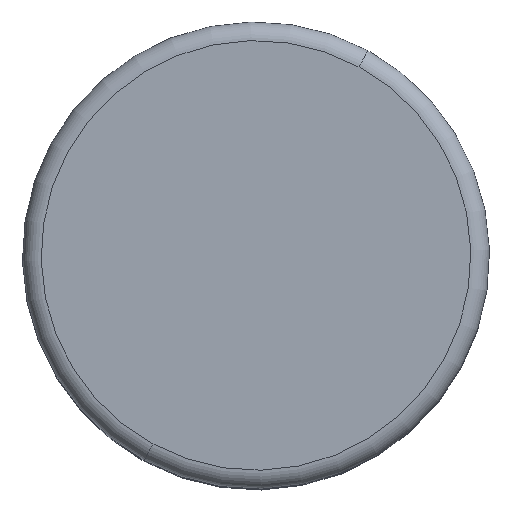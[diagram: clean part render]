
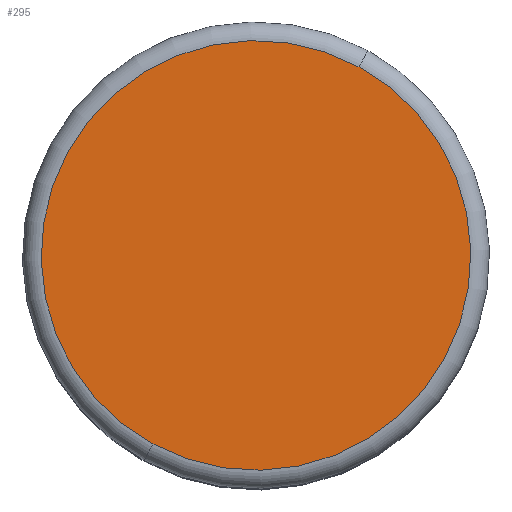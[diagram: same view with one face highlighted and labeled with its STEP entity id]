
A CAD part, top view. The second image highlights one B-rep face of the part: STEP entity #295.
In plain terms, the highlighted planar face has unit normal (0, 0, 1).
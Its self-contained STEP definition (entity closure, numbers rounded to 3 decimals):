
#242=CARTESIAN_POINT('Vertex',(11.027,20.184,70.)) ;
#245=CARTESIAN_POINT('Axis2P3D Location',(0.,0.,70.)) ;
#249=CARTESIAN_POINT('Vertex',(-11.027,-20.184,70.)) ;
#264=CARTESIAN_POINT('Axis2P3D Location',(0.,0.,70.)) ;
#286=CARTESIAN_POINT('Axis2P3D Location',(0.,23.,70.)) ;
#246=DIRECTION('Axis2P3D Direction',(0.,0.,-1.)) ;
#265=DIRECTION('Axis2P3D Direction',(0.,0.,-1.)) ;
#287=DIRECTION('Axis2P3D Direction',(0.,0.,-1.)) ;
#288=DIRECTION('Axis2P3D XDirection',(1.,0.,0.)) ;
#247=AXIS2_PLACEMENT_3D('Circle Axis2P3D',#245,#246,$) ;
#266=AXIS2_PLACEMENT_3D('Circle Axis2P3D',#264,#265,$) ;
#289=AXIS2_PLACEMENT_3D('Plane Axis2P3D',#286,#287,#288) ;
#292=ORIENTED_EDGE('',*,*,#251,.F.) ;
#293=ORIENTED_EDGE('',*,*,#268,.F.) ;
#295=ADVANCED_FACE('A519-50',(#294),#290,.F.) ;
#248=CIRCLE('generated circle',#247,23.) ;
#267=CIRCLE('generated circle',#266,23.) ;
#251=EDGE_CURVE('',#243,#250,#248,.T.) ;
#268=EDGE_CURVE('',#250,#243,#267,.T.) ;
#291=EDGE_LOOP('',(#292,#293)) ;
#294=FACE_OUTER_BOUND('',#291,.T.) ;
#290=PLANE('Plane',#289) ;
#243=VERTEX_POINT('',#242) ;
#250=VERTEX_POINT('',#249) ;
